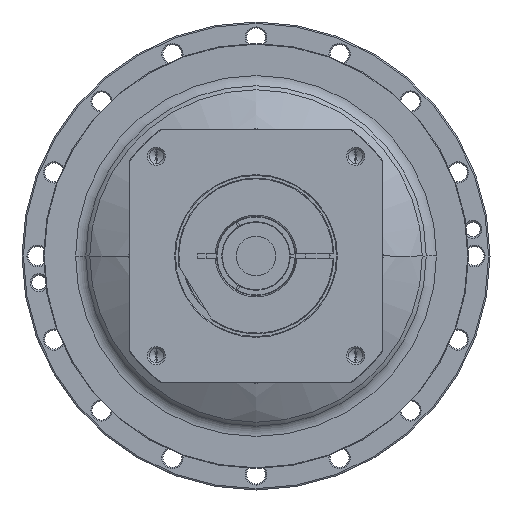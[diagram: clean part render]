
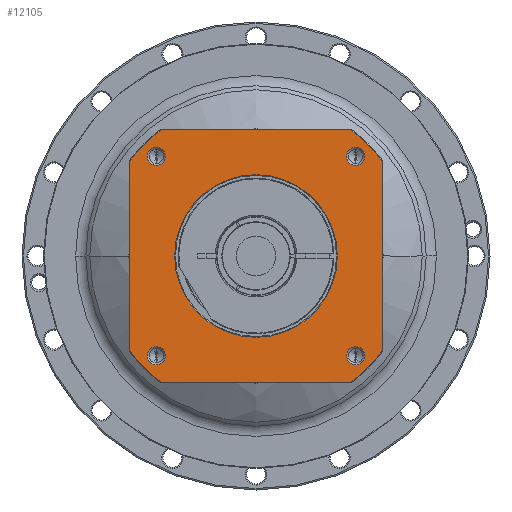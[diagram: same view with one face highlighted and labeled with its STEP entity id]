
A CAD part, left-side view. The second image highlights one B-rep face of the part: STEP entity #12105.
In plain terms, the highlighted planar face has unit normal (-1, 0, 0) as drawn and (0, 0, 1) by its records, which use the part's own axes.
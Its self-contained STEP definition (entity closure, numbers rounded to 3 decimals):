
#10833=DIRECTION('',(1.,0.,0.));
#10834=VECTOR('',#10833,134.666);
#10835=CARTESIAN_POINT('',(-67.333,-89.5,54.));
#10836=LINE('',#10835,#10834);
#10846=CARTESIAN_POINT('',(0.,0.,54.));
#10847=DIRECTION('',(0.,0.,-1.));
#10848=DIRECTION('',(0.,-1.,0.));
#10849=AXIS2_PLACEMENT_3D('',#10846,#10847,#10848);
#10851=CARTESIAN_POINT('',(0.,0.,
54.));
#10852=DIRECTION('',(0.,0.,-1.));
#10853=DIRECTION('',(0.,1.,0.));
#10854=AXIS2_PLACEMENT_3D('',#10851,#10852,#10853);
#10856=CARTESIAN_POINT('',(0.,0.,54.));
#10857=DIRECTION('',(0.,0.,1.));
#10858=DIRECTION('',(-0.799,-0.601,0.));
#10859=AXIS2_PLACEMENT_3D('',#10856,#10857,#10858);
#10871=DIRECTION('',(0.,-1.,0.));
#10872=VECTOR('',#10871,134.666);
#10873=CARTESIAN_POINT('',(-89.5,67.333,54.));
#10874=LINE('',#10873,#10872);
#10884=CARTESIAN_POINT('',(0.,0.,54.));
#10885=DIRECTION('',(0.,0.,1.));
#10886=DIRECTION('',(-0.601,0.799,0.));
#10887=AXIS2_PLACEMENT_3D('',#10884,#10885,#10886);
#10912=DIRECTION('',(-1.,0.,0.));
#10913=VECTOR('',#10912,134.666);
#10914=CARTESIAN_POINT('',(67.333,89.5,54.));
#10915=LINE('',#10914,#10913);
#10920=CARTESIAN_POINT('',(0.,0.,54.));
#10921=DIRECTION('',(0.,0.,1.));
#10922=DIRECTION('',(0.799,0.601,0.));
#10923=AXIS2_PLACEMENT_3D('',#10920,#10921,#10922);
#10935=DIRECTION('',(0.,1.,0.));
#10936=VECTOR('',#10935,134.666);
#10937=CARTESIAN_POINT('',(89.5,-67.333,54.));
#10938=LINE('',#10937,#10936);
#11040=CARTESIAN_POINT('',(0.,0.,54.));
#11041=DIRECTION('',(0.,0.,1.));
#11042=DIRECTION('',(0.601,-0.799,0.));
#11043=AXIS2_PLACEMENT_3D('',#11040,#11041,#11042);
#11322=CARTESIAN_POINT('',(-70.711,70.711,54.));
#11323=DIRECTION('',(0.,0.,1.));
#11324=DIRECTION('',(-1.,0.,0.));
#11325=AXIS2_PLACEMENT_3D('',#11322,#11323,#11324);
#11340=CARTESIAN_POINT('',(-70.711,70.711,54.));
#11341=DIRECTION('',(0.,0.,1.));
#11342=DIRECTION('',(1.,0.,0.));
#11343=AXIS2_PLACEMENT_3D('',#11340,#11341,#11342);
#11376=CARTESIAN_POINT('',(70.711,70.711,54.));
#11377=DIRECTION('',(0.,0.,1.));
#11378=DIRECTION('',(-1.,0.,0.));
#11379=AXIS2_PLACEMENT_3D('',#11376,#11377,#11378);
#11394=CARTESIAN_POINT('',(70.711,70.711,54.));
#11395=DIRECTION('',(0.,0.,1.));
#11396=DIRECTION('',(1.,0.,0.));
#11397=AXIS2_PLACEMENT_3D('',#11394,#11395,#11396);
#11430=CARTESIAN_POINT('',(70.711,-70.711,54.));
#11431=DIRECTION('',(0.,0.,1.));
#11432=DIRECTION('',(-1.,0.,0.));
#11433=AXIS2_PLACEMENT_3D('',#11430,#11431,#11432);
#11448=CARTESIAN_POINT('',(70.711,-70.711,54.));
#11449=DIRECTION('',(0.,0.,1.));
#11450=DIRECTION('',(1.,0.,0.));
#11451=AXIS2_PLACEMENT_3D('',#11448,#11449,#11450);
#11484=CARTESIAN_POINT('',(-70.711,-70.711,54.));
#11485=DIRECTION('',(0.,0.,1.));
#11486=DIRECTION('',(-1.,0.,0.));
#11487=AXIS2_PLACEMENT_3D('',#11484,#11485,#11486);
#11502=CARTESIAN_POINT('',(-70.711,-70.711,54.));
#11503=DIRECTION('',(0.,0.,1.));
#11504=DIRECTION('',(1.,0.,0.));
#11505=AXIS2_PLACEMENT_3D('',#11502,#11503,#11504);
#11546=CARTESIAN_POINT('',(89.5,-67.333,54.));
#11547=CARTESIAN_POINT('',(89.5,67.333,54.));
#11548=VERTEX_POINT('',#11546);
#11549=VERTEX_POINT('',#11547);
#11554=CARTESIAN_POINT('',(67.333,-89.5,54.));
#11555=VERTEX_POINT('',#11554);
#11558=CARTESIAN_POINT('',(-67.333,-89.5,54.));
#11559=VERTEX_POINT('',#11558);
#11562=CARTESIAN_POINT('',(-89.5,-67.333,54.));
#11563=VERTEX_POINT('',#11562);
#11566=CARTESIAN_POINT('',(-89.5,67.333,54.));
#11567=VERTEX_POINT('',#11566);
#11570=CARTESIAN_POINT('',(-67.333,89.5,54.));
#11571=VERTEX_POINT('',#11570);
#11574=CARTESIAN_POINT('',(67.333,89.5,54.));
#11575=VERTEX_POINT('',#11574);
#11624=CARTESIAN_POINT('',(-77.111,70.711,54.));
#11625=CARTESIAN_POINT('',(-64.311,70.711,54.));
#11626=VERTEX_POINT('',#11624);
#11627=VERTEX_POINT('',#11625);
#11658=CARTESIAN_POINT('',(77.111,70.711,54.));
#11659=CARTESIAN_POINT('',(64.311,70.711,54.));
#11660=VERTEX_POINT('',#11658);
#11661=VERTEX_POINT('',#11659);
#11666=CARTESIAN_POINT('',(77.111,-70.711,54.));
#11667=CARTESIAN_POINT('',(64.311,-70.711,54.));
#11668=VERTEX_POINT('',#11666);
#11669=VERTEX_POINT('',#11667);
#11674=CARTESIAN_POINT('',(-64.311,-70.711,54.));
#11675=CARTESIAN_POINT('',(-77.111,-70.711,54.));
#11676=VERTEX_POINT('',#11674);
#11677=VERTEX_POINT('',#11675);
#11682=CARTESIAN_POINT('',(0.,-57.65,54.));
#11683=CARTESIAN_POINT('',(0.,57.65,54.));
#11684=VERTEX_POINT('',#11682);
#11685=VERTEX_POINT('',#11683);
#12053=CARTESIAN_POINT('',(0.,0.,54.));
#12054=DIRECTION('',(0.,0.,1.));
#12055=DIRECTION('',(1.,0.,0.));
#12056=AXIS2_PLACEMENT_3D('',#12053,#12054,#12055);
#12057=PLANE('',#12056);
#12059=ORIENTED_EDGE('',*,*,#12058,.F.);
#12061=ORIENTED_EDGE('',*,*,#12060,.F.);
#12063=ORIENTED_EDGE('',*,*,#12062,.F.);
#12065=ORIENTED_EDGE('',*,*,#12064,.F.);
#12067=ORIENTED_EDGE('',*,*,#12066,.F.);
#12069=ORIENTED_EDGE('',*,*,#12068,.F.);
#12071=ORIENTED_EDGE('',*,*,#12070,.F.);
#12072=ORIENTED_EDGE('',*,*,#12043,.F.);
#12073=EDGE_LOOP('',(#12059,#12061,#12063,#12065,#12067,#12069,#12071,#12072));
#12074=FACE_OUTER_BOUND('',#12073,.F.);
#12076=ORIENTED_EDGE('',*,*,#12075,.F.);
#12078=ORIENTED_EDGE('',*,*,#12077,.F.);
#12079=EDGE_LOOP('',(#12076,#12078));
#12080=FACE_BOUND('',#12079,.F.);
#12082=ORIENTED_EDGE('',*,*,#12081,.T.);
#12084=ORIENTED_EDGE('',*,*,#12083,.T.);
#12085=EDGE_LOOP('',(#12082,#12084));
#12086=FACE_BOUND('',#12085,.F.);
#12088=ORIENTED_EDGE('',*,*,#12087,.T.);
#12090=ORIENTED_EDGE('',*,*,#12089,.T.);
#12091=EDGE_LOOP('',(#12088,#12090));
#12092=FACE_BOUND('',#12091,.F.);
#12094=ORIENTED_EDGE('',*,*,#12093,.T.);
#12096=ORIENTED_EDGE('',*,*,#12095,.T.);
#12097=EDGE_LOOP('',(#12094,#12096));
#12098=FACE_BOUND('',#12097,.F.);
#12100=ORIENTED_EDGE('',*,*,#12099,.T.);
#12102=ORIENTED_EDGE('',*,*,#12101,.T.);
#12103=EDGE_LOOP('',(#12100,#12102));
#12104=FACE_BOUND('',#12103,.F.);
#12105=ADVANCED_FACE('',(#12074,#12080,#12086,#12092,#12098,#12104),#12057,.T.);
#10850=CIRCLE('',#10849,57.65);
#10855=CIRCLE('',#10854,57.65);
#10860=CIRCLE('',#10859,112.);
#10888=CIRCLE('',#10887,112.);
#10924=CIRCLE('',#10923,112.);
#11044=CIRCLE('',#11043,112.);
#11326=CIRCLE('',#11325,6.4);
#11344=CIRCLE('',#11343,6.4);
#11380=CIRCLE('',#11379,6.4);
#11398=CIRCLE('',#11397,6.4);
#11434=CIRCLE('',#11433,6.4);
#11452=CIRCLE('',#11451,6.4);
#11488=CIRCLE('',#11487,6.4);
#11506=CIRCLE('',#11505,6.4);
#12043=EDGE_CURVE('',#11559,#11555,#10836,.T.);
#12058=EDGE_CURVE('',#11563,#11559,#10860,.T.);
#12060=EDGE_CURVE('',#11567,#11563,#10874,.T.);
#12062=EDGE_CURVE('',#11571,#11567,#10888,.T.);
#12064=EDGE_CURVE('',#11575,#11571,#10915,.T.);
#12066=EDGE_CURVE('',#11549,#11575,#10924,.T.);
#12068=EDGE_CURVE('',#11548,#11549,#10938,.T.);
#12070=EDGE_CURVE('',#11555,#11548,#11044,.T.);
#12075=EDGE_CURVE('',#11684,#11685,#10850,.T.);
#12077=EDGE_CURVE('',#11685,#11684,#10855,.T.);
#12081=EDGE_CURVE('',#11626,#11627,#11326,.T.);
#12083=EDGE_CURVE('',#11627,#11626,#11344,.T.);
#12087=EDGE_CURVE('',#11661,#11660,#11380,.T.);
#12089=EDGE_CURVE('',#11660,#11661,#11398,.T.);
#12093=EDGE_CURVE('',#11669,#11668,#11434,.T.);
#12095=EDGE_CURVE('',#11668,#11669,#11452,.T.);
#12099=EDGE_CURVE('',#11677,#11676,#11488,.T.);
#12101=EDGE_CURVE('',#11676,#11677,#11506,.T.);
